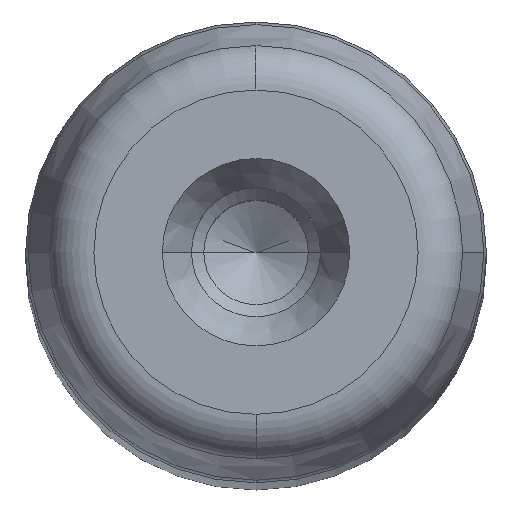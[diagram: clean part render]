
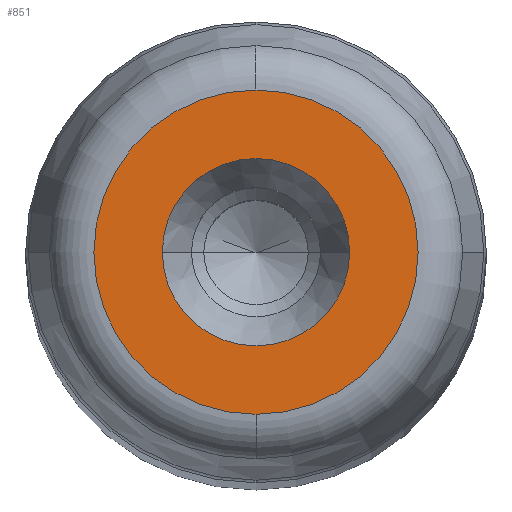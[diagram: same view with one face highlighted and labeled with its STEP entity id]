
A CAD part, top view. The second image highlights one B-rep face of the part: STEP entity #851.
In plain terms, the highlighted planar face has unit normal (0, 0, 1) as drawn and (0, 1, 0) by its records, which use the part's own axes.
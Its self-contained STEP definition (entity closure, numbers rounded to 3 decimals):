
#281=CARTESIAN_POINT('',(6.1,280.0,0.0));
#282=VERTEX_POINT('',#281);
#289=CARTESIAN_POINT('',(-6.1,280.0,0.));
#290=VERTEX_POINT('',#289);
#291=CARTESIAN_POINT('',(0.0,280.0,0.0));
#292=DIRECTION('',(0.0,1.0,0.0));
#293=DIRECTION('',(1.0,0.0,0.0));
#294=AXIS2_PLACEMENT_3D('',#291,#292,#293);
#295=CIRCLE('',#294,6.1);
#296=EDGE_CURVE('',#282,#290,#295,.T.);
#313=CARTESIAN_POINT('',(0.0,280.,10.554));
#314=VERTEX_POINT('',#313);
#324=CARTESIAN_POINT('',(0.,280.,-10.554));
#325=VERTEX_POINT('',#324);
#326=CARTESIAN_POINT('',(0.0,280.,0.0));
#327=DIRECTION('',(0.0,1.0,0.0));
#328=DIRECTION('',(1.0,0.0,0.0));
#329=AXIS2_PLACEMENT_3D('',#326,#327,#328);
#330=CIRCLE('',#329,10.554);
#331=EDGE_CURVE('',#325,#314,#330,.T.);
#812=CARTESIAN_POINT('',(10.554,280.,0.0));
#813=VERTEX_POINT('',#812);
#814=CARTESIAN_POINT('',(0.0,280.,0.0));
#815=DIRECTION('',(0.0,1.0,0.0));
#816=DIRECTION('',(1.0,0.0,0.0));
#817=AXIS2_PLACEMENT_3D('',#814,#815,#816);
#818=CIRCLE('',#817,10.554);
#819=EDGE_CURVE('',#813,#325,#818,.T.);
#821=CARTESIAN_POINT('',(0.0,280.,0.0));
#822=DIRECTION('',(0.0,1.0,0.0));
#823=DIRECTION('',(1.0,0.0,0.0));
#824=AXIS2_PLACEMENT_3D('',#821,#822,#823);
#825=CIRCLE('',#824,10.554);
#826=EDGE_CURVE('',#314,#813,#825,.T.);
#831=CARTESIAN_POINT('',(-11.61,280.0,-11.61));
#832=DIRECTION('',(0.0,1.0,0.0));
#833=DIRECTION('',(0.0,0.0,1.0));
#834=AXIS2_PLACEMENT_3D('',#831,#832,#833);
#835=PLANE('',#834);
#836=ORIENTED_EDGE('',*,*,#819,.T.);
#837=ORIENTED_EDGE('',*,*,#331,.T.);
#838=ORIENTED_EDGE('',*,*,#826,.T.);
#839=EDGE_LOOP('',(#836,#837,#838));
#840=FACE_OUTER_BOUND('',#839,.T.);
#841=ORIENTED_EDGE('',*,*,#296,.F.);
#842=CARTESIAN_POINT('',(0.0,280.0,0.0));
#843=DIRECTION('',(0.0,1.0,0.0));
#844=DIRECTION('',(1.0,0.0,0.0));
#845=AXIS2_PLACEMENT_3D('',#842,#843,#844);
#846=CIRCLE('',#845,6.1);
#847=EDGE_CURVE('',#290,#282,#846,.T.);
#848=ORIENTED_EDGE('',*,*,#847,.F.);
#849=EDGE_LOOP('',(#841,#848));
#850=FACE_BOUND('',#849,.T.);
#851=ADVANCED_FACE('',(#840,#850),#835,.T.);
